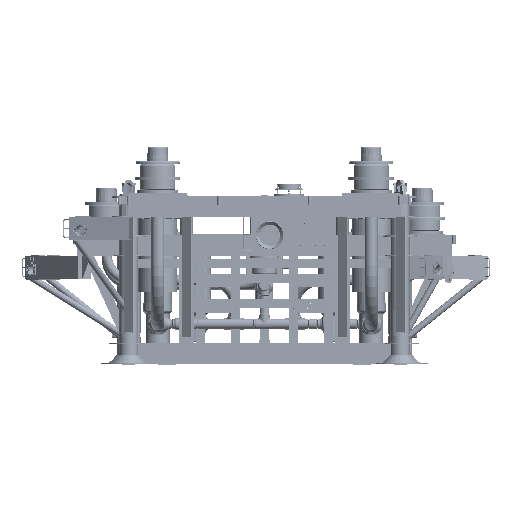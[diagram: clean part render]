
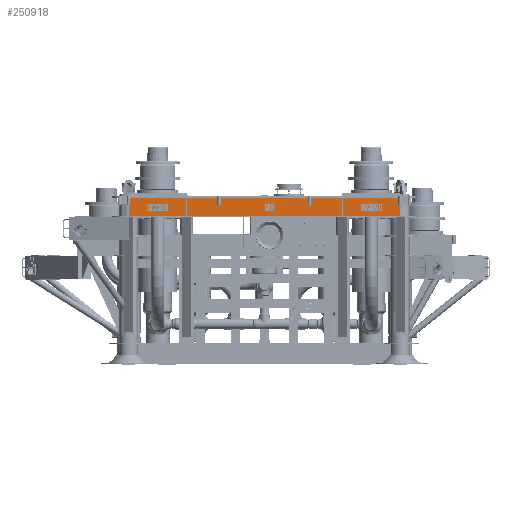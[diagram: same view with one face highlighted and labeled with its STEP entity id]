
A CAD part, left-side view. The second image highlights one B-rep face of the part: STEP entity #250918.
In plain terms, the highlighted planar face has unit normal (-1, 0, 0).
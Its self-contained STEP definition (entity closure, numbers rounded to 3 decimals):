
#10678=PLANE('',#564855);
#19737=FACE_OUTER_BOUND('',#288142,.T.);
#32650=B_SPLINE_CURVE_WITH_KNOTS('',3,(#651958,#651959,#651960,#651961),
 .UNSPECIFIED.,.F.,.F.,(4,4),(0.,1.),.UNSPECIFIED.);
#32651=B_SPLINE_CURVE_WITH_KNOTS('',3,(#651964,#651965,#651966,#651967),
 .UNSPECIFIED.,.F.,.F.,(4,4),(0.,1.),.UNSPECIFIED.);
#32652=B_SPLINE_CURVE_WITH_KNOTS('',3,(#651969,#651970,#651971,#651972),
 .UNSPECIFIED.,.F.,.F.,(4,4),(0.,1.),.UNSPECIFIED.);
#32653=B_SPLINE_CURVE_WITH_KNOTS('',3,(#651974,#651975,#651976,#651977),
 .UNSPECIFIED.,.F.,.F.,(4,4),(0.,1.),.UNSPECIFIED.);
#32654=B_SPLINE_CURVE_WITH_KNOTS('',3,(#651979,#651980,#651981,#651982),
 .UNSPECIFIED.,.F.,.F.,(4,4),(0.,1.),.UNSPECIFIED.);
#32655=B_SPLINE_CURVE_WITH_KNOTS('',3,(#651984,#651985,#651986,#651987),
 .UNSPECIFIED.,.F.,.F.,(4,4),(0.,1.),.UNSPECIFIED.);
#32656=B_SPLINE_CURVE_WITH_KNOTS('',3,(#651989,#651990,#651991,#651992),
 .UNSPECIFIED.,.F.,.F.,(4,4),(0.,1.),.UNSPECIFIED.);
#32657=B_SPLINE_CURVE_WITH_KNOTS('',3,(#651994,#651995,#651996,#651997),
 .UNSPECIFIED.,.F.,.F.,(4,4),(0.,1.),.UNSPECIFIED.);
#250918=ADVANCED_FACE('',(#19737),#10678,.T.);
#288142=EDGE_LOOP('',(#317850,#317851,#317852,#317853,#317854,#317855,#317856,
#317857));
#317850=ORIENTED_EDGE('',*,*,#478525,.T.);
#317851=ORIENTED_EDGE('',*,*,#478526,.T.);
#317852=ORIENTED_EDGE('',*,*,#478527,.T.);
#317853=ORIENTED_EDGE('',*,*,#478528,.T.);
#317854=ORIENTED_EDGE('',*,*,#478529,.T.);
#317855=ORIENTED_EDGE('',*,*,#478530,.T.);
#317856=ORIENTED_EDGE('',*,*,#478531,.T.);
#317857=ORIENTED_EDGE('',*,*,#478532,.T.);
#404541=VERTEX_POINT('',#651962);
#404542=VERTEX_POINT('',#651963);
#404543=VERTEX_POINT('',#651968);
#404544=VERTEX_POINT('',#651973);
#404545=VERTEX_POINT('',#651978);
#404546=VERTEX_POINT('',#651983);
#404547=VERTEX_POINT('',#651988);
#404548=VERTEX_POINT('',#651993);
#478525=EDGE_CURVE('',#404541,#404542,#32650,.T.);
#478526=EDGE_CURVE('',#404542,#404543,#32651,.T.);
#478527=EDGE_CURVE('',#404543,#404544,#32652,.T.);
#478528=EDGE_CURVE('',#404544,#404545,#32653,.T.);
#478529=EDGE_CURVE('',#404545,#404546,#32654,.T.);
#478530=EDGE_CURVE('',#404546,#404547,#32655,.T.);
#478531=EDGE_CURVE('',#404547,#404548,#32656,.T.);
#478532=EDGE_CURVE('',#404548,#404541,#32657,.T.);
#564855=AXIS2_PLACEMENT_3D('',#651998,#589393,#589394);
#589393=DIRECTION('',(-1.,0.,0.));
#589394=DIRECTION('',(0.,0.,-1.));
#651958=CARTESIAN_POINT('',(-265.35,91.275,99.535));
#651959=CARTESIAN_POINT('',(-265.35,89.672,99.535));
#651960=CARTESIAN_POINT('',(-265.35,88.068,99.535));
#651961=CARTESIAN_POINT('',(-265.35,86.465,99.535));
#651962=CARTESIAN_POINT('',(-265.35,91.275,99.535));
#651963=CARTESIAN_POINT('',(-265.35,86.465,99.535));
#651964=CARTESIAN_POINT('',(-265.35,86.465,99.535));
#651965=CARTESIAN_POINT('',(-265.35,28.822,99.535));
#651966=CARTESIAN_POINT('',(-265.35,-28.822,99.535));
#651967=CARTESIAN_POINT('',(-265.35,-86.465,99.535));
#651968=CARTESIAN_POINT('',(-265.35,-86.465,99.535));
#651969=CARTESIAN_POINT('',(-265.35,-86.465,99.535));
#651970=CARTESIAN_POINT('',(-265.35,-88.068,99.535));
#651971=CARTESIAN_POINT('',(-265.35,-89.672,99.535));
#651972=CARTESIAN_POINT('',(-265.35,-91.275,99.535));
#651973=CARTESIAN_POINT('',(-265.35,-91.275,99.535));
#651974=CARTESIAN_POINT('',(-265.35,-91.275,99.535));
#651975=CARTESIAN_POINT('',(-265.35,-91.275,103.735));
#651976=CARTESIAN_POINT('',(-265.35,-91.275,107.935));
#651977=CARTESIAN_POINT('',(-265.35,-91.275,112.135));
#651978=CARTESIAN_POINT('',(-265.35,-91.275,112.135));
#651979=CARTESIAN_POINT('',(-265.35,-91.275,112.135));
#651980=CARTESIAN_POINT('',(-265.35,-89.672,112.135));
#651981=CARTESIAN_POINT('',(-265.35,-88.068,112.135));
#651982=CARTESIAN_POINT('',(-265.35,-86.465,112.135));
#651983=CARTESIAN_POINT('',(-265.35,-86.465,112.135));
#651984=CARTESIAN_POINT('',(-265.35,-86.465,112.135));
#651985=CARTESIAN_POINT('',(-265.35,-28.822,112.135));
#651986=CARTESIAN_POINT('',(-265.35,28.822,112.135));
#651987=CARTESIAN_POINT('',(-265.35,86.465,112.135));
#651988=CARTESIAN_POINT('',(-265.35,86.465,112.135));
#651989=CARTESIAN_POINT('',(-265.35,86.465,112.135));
#651990=CARTESIAN_POINT('',(-265.35,88.068,112.135));
#651991=CARTESIAN_POINT('',(-265.35,89.672,112.135));
#651992=CARTESIAN_POINT('',(-265.35,91.275,112.135));
#651993=CARTESIAN_POINT('',(-265.35,91.275,112.135));
#651994=CARTESIAN_POINT('',(-265.35,91.275,112.135));
#651995=CARTESIAN_POINT('',(-265.35,91.275,107.935));
#651996=CARTESIAN_POINT('',(-265.35,91.275,103.735));
#651997=CARTESIAN_POINT('',(-265.35,91.275,99.535));
#651998=CARTESIAN_POINT('',(-265.35,52.5,99.535));
